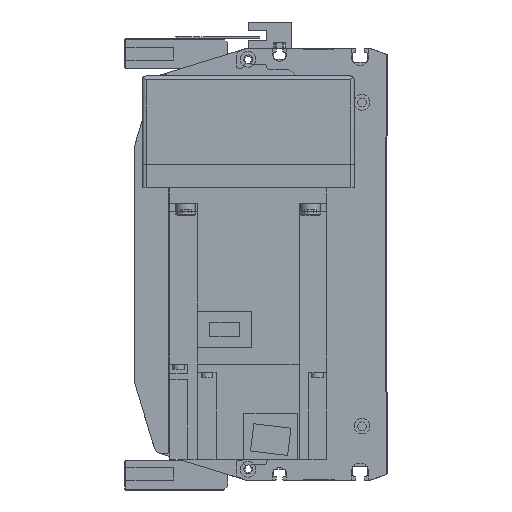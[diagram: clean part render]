
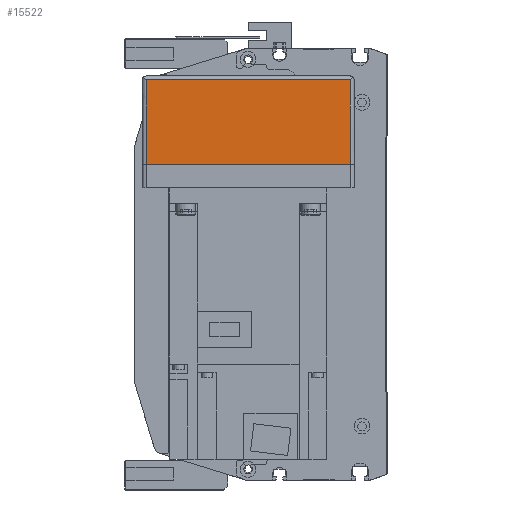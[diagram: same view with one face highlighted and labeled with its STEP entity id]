
A CAD part, left-side view. The second image highlights one B-rep face of the part: STEP entity #15522.
In plain terms, the highlighted planar face has unit normal (-1, 0, 0).
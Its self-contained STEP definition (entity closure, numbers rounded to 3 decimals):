
#2624=ORIENTED_EDGE('',*,*,#6308,.T.);
#2625=ORIENTED_EDGE('',*,*,#6236,.T.);
#2626=ORIENTED_EDGE('',*,*,#6309,.F.);
#2627=ORIENTED_EDGE('',*,*,#6248,.F.);
#6236=EDGE_CURVE('',#8224,#8227,#9834,.T.);
#6248=EDGE_CURVE('',#8234,#8236,#9839,.T.);
#6308=EDGE_CURVE('',#8234,#8224,#9881,.T.);
#6309=EDGE_CURVE('',#8236,#8227,#9882,.T.);
#8224=VERTEX_POINT('',#24169);
#8227=VERTEX_POINT('',#24175);
#8234=VERTEX_POINT('',#24198);
#8236=VERTEX_POINT('',#24201);
#9834=LINE('',#24176,#11193);
#9839=LINE('',#24200,#11198);
#9881=LINE('',#24324,#11240);
#9882=LINE('',#24325,#11241);
#11193=VECTOR('',#19279,1000.);
#11198=VECTOR('',#19306,1000.);
#11240=VECTOR('',#19426,1000.);
#11241=VECTOR('',#19427,1000.);
#12409=EDGE_LOOP('',(#2624,#2625,#2626,#2627));
#13720=FACE_BOUND('',#12409,.T.);
#14869=PLANE('',#16671);
#15522=ADVANCED_FACE('',(#13720),#14869,.T.);
#16671=AXIS2_PLACEMENT_3D('',#24323,#19424,#19425);
#19279=DIRECTION('',(0.,0.,1.));
#19306=DIRECTION('',(0.,0.,1.));
#19424=DIRECTION('',(-1.,0.,0.));
#19425=DIRECTION('',(0.,0.,1.));
#19426=DIRECTION('',(0.,-1.,0.));
#19427=DIRECTION('',(0.,-1.,0.));
#24169=CARTESIAN_POINT('',(-230.,-52.,-55.));
#24175=CARTESIAN_POINT('',(-230.,-52.,-12.));
#24176=CARTESIAN_POINT('',(-230.,-52.,-57.));
#24198=CARTESIAN_POINT('',(-230.,52.,-55.));
#24200=CARTESIAN_POINT('',(-230.,52.,-57.));
#24201=CARTESIAN_POINT('',(-230.,52.,-12.));
#24323=CARTESIAN_POINT('',(-230.,52.,-57.));
#24324=CARTESIAN_POINT('',(-230.,54.,-55.));
#24325=CARTESIAN_POINT('',(-230.,52.,-12.));
